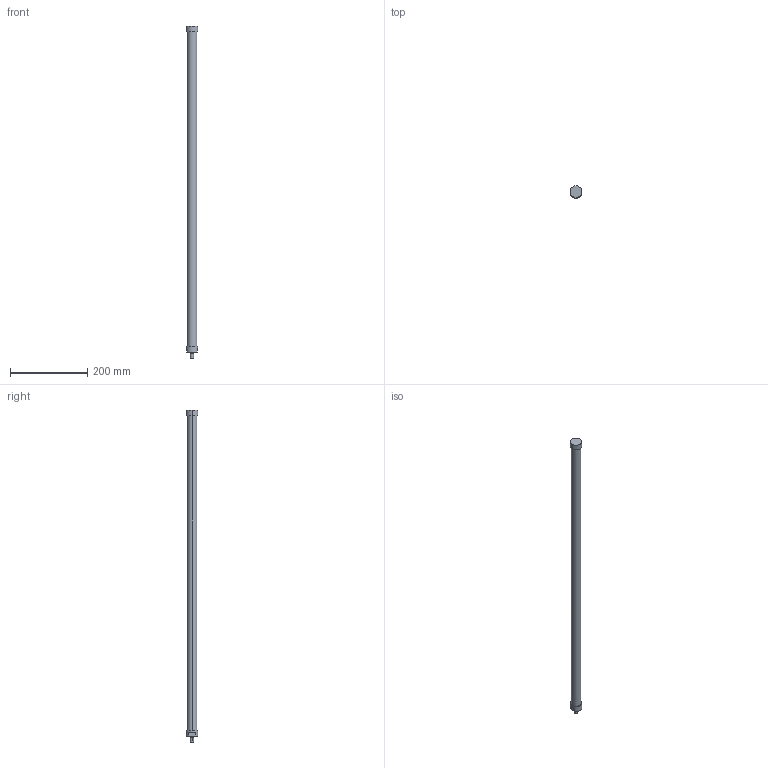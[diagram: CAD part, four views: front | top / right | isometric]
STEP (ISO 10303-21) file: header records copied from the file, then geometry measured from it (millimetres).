
FILE_DESCRIPTION(('STEP AP214'),'1');
FILE_NAME('ETT-R050M854.stp','2015-02-02T15:23:32',(' '),(' '),'Spatial InterOp 3D',' ',' ');
FILE_SCHEMA(('automotive_design'));
Length unit declared in the file: metre
Products named in the file (2): 1; 2
Bounding box: 31 x 31 x 859 mm (x, y, z)
Volume: 422395.8 mm3; surface area: 69524.6 mm2
Topology: 1 solids, 4 shells, 20 faces, 48 edges, 36 vertices
Faces by surface type: cylinder 10, plane 10
Entity records: 812 total; most frequent: DIRECTION 120, CARTESIAN_POINT 106, ORIENTED_EDGE 84, AXIS2_PLACEMENT_3D 50, EDGE_CURVE 48, VERTEX_POINT 36, CIRCLE 28, EDGE_LOOP 24
